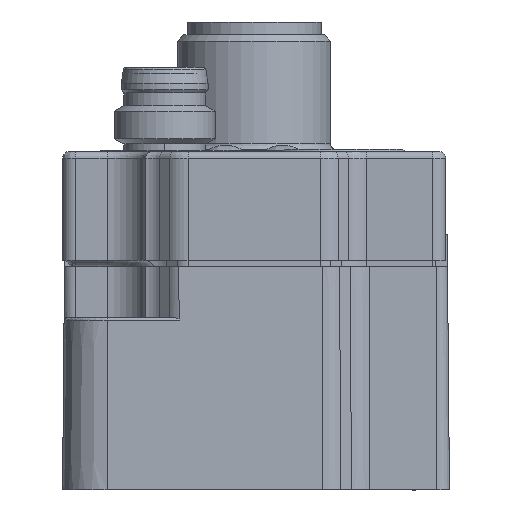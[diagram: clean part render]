
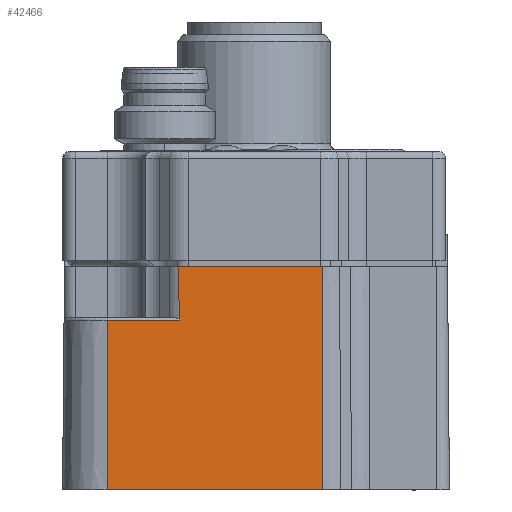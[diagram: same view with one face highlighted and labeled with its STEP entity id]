
A CAD part, front view. The second image highlights one B-rep face of the part: STEP entity #42466.
In plain terms, the highlighted planar face has unit normal (0, -1, 0.009).
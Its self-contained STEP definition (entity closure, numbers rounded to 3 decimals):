
#821 = DIRECTION ( 'NONE',  ( 0., 0.009, 1. ) ) ;
#1416 = CARTESIAN_POINT ( 'NONE',  ( -5.75, 0., -11.689 ) ) ;
#2776 = VERTEX_POINT ( 'NONE', #15012 ) ;
#4658 = VECTOR ( 'NONE', #821, 1000. ) ;
#5923 = EDGE_LOOP ( 'NONE', ( #29646, #33577, #47526, #33277, #43744, #41555, #22990 ) ) ;
#6136 = EDGE_CURVE ( 'NONE', #2776, #8476, #17898, .T. ) ;
#7126 = DIRECTION ( 'NONE',  ( 0., -0.009, -1. ) ) ;
#7173 = LINE ( 'NONE', #47529, #49574 ) ;
#7368 = LINE ( 'NONE', #50333, #49769 ) ;
#7708 = VERTEX_POINT ( 'NONE', #48083 ) ;
#8476 = VERTEX_POINT ( 'NONE', #36921 ) ;
#9246 = DIRECTION ( 'NONE',  ( -1., 0., 0. ) ) ;
#10087 = EDGE_CURVE ( 'NONE', #13324, #30437, #18788, .T. ) ;
#10630 = EDGE_CURVE ( 'NONE', #31687, #7708, #16927, .T. ) ;
#10683 = CARTESIAN_POINT ( 'NONE',  ( 11.134, 0.116, 1.613 ) ) ;
#10847 = DIRECTION ( 'NONE',  ( -1., 0., 0. ) ) ;
#13071 = CARTESIAN_POINT ( 'NONE',  ( 11.134, 0., -11.689 ) ) ;
#13298 = CARTESIAN_POINT ( 'NONE',  ( -0.188, 0.153, 5.811 ) ) ;
#13324 = VERTEX_POINT ( 'NONE', #1416 ) ;
#13840 = DIRECTION ( 'NONE',  ( 0., 0.009, 1. ) ) ;
#14420 = B_SPLINE_CURVE_WITH_KNOTS ( 'NONE', 3,
 ( #37683, #41810, #17247, #45913 ),
 .UNSPECIFIED., .F., .F.,
 ( 4, 4 ),
 ( 0., 1. ),
 .UNSPECIFIED. ) ;
#15012 = CARTESIAN_POINT ( 'NONE',  ( -0.098, 0.118, 1.811 ) ) ;
#16927 = LINE ( 'NONE', #13071, #4658 ) ;
#17247 = CARTESIAN_POINT ( 'NONE',  ( -0.128, 0.129, 3.061 ) ) ;
#17898 = LINE ( 'NONE', #36784, #38417 ) ;
#17972 = CARTESIAN_POINT ( 'NONE',  ( 11.134, 0., -11.689 ) ) ;
#18397 = VECTOR ( 'NONE', #10847, 1000. ) ;
#18788 = LINE ( 'NONE', #42345, #24011 ) ;
#19405 = DIRECTION ( 'NONE',  ( -1., 0., 0. ) ) ;
#22990 = ORIENTED_EDGE ( 'NONE', *, *, #10630, .T. ) ;
#24011 = VECTOR ( 'NONE', #13840, 1000. ) ;
#24087 = EDGE_CURVE ( 'NONE', #8476, #30437, #29273, .T. ) ;
#24639 = AXIS2_PLACEMENT_3D ( 'NONE', #39868, #31732, #7126 ) ;
#29273 = LINE ( 'NONE', #10683, #18397 ) ;
#29646 = ORIENTED_EDGE ( 'NONE', *, *, #34848, .T. ) ;
#30437 = VERTEX_POINT ( 'NONE', #39830 ) ;
#31687 = VERTEX_POINT ( 'NONE', #17972 ) ;
#31732 = DIRECTION ( 'NONE',  ( 0., -1., 0.009 ) ) ;
#33277 = ORIENTED_EDGE ( 'NONE', *, *, #24087, .T. ) ;
#33577 = ORIENTED_EDGE ( 'NONE', *, *, #33942, .T. ) ;
#33942 = EDGE_CURVE ( 'NONE', #38648, #2776, #14420, .T. ) ;
#34848 = EDGE_CURVE ( 'NONE', #7708, #38648, #7368, .T. ) ;
#36784 = CARTESIAN_POINT ( 'NONE',  ( -0.098, 0.118, 1.811 ) ) ;
#36921 = CARTESIAN_POINT ( 'NONE',  ( -0.093, 0.116, 1.613 ) ) ;
#37683 = CARTESIAN_POINT ( 'NONE',  ( -0.188, 0.153, 5.811 ) ) ;
#38387 = EDGE_CURVE ( 'NONE', #31687, #13324, #7173, .T. ) ;
#38417 = VECTOR ( 'NONE', #40949, 1000. ) ;
#38648 = VERTEX_POINT ( 'NONE', #13298 ) ;
#39830 = CARTESIAN_POINT ( 'NONE',  ( -5.75, 0.116, 1.613 ) ) ;
#39868 = CARTESIAN_POINT ( 'NONE',  ( 11.134, 0., -11.689 ) ) ;
#40949 = DIRECTION ( 'NONE',  ( 0.024, -0.009, -1. ) ) ;
#41555 = ORIENTED_EDGE ( 'NONE', *, *, #38387, .F. ) ;
#41810 = CARTESIAN_POINT ( 'NONE',  ( -0.158, 0.14, 4.395 ) ) ;
#42345 = CARTESIAN_POINT ( 'NONE',  ( -5.75, -4354.605, -499000. ) ) ;
#42466 = ADVANCED_FACE ( 'NONE', ( #49287 ), #52186, .T. ) ;
#43744 = ORIENTED_EDGE ( 'NONE', *, *, #10087, .F. ) ;
#45913 = CARTESIAN_POINT ( 'NONE',  ( -0.098, 0.118, 1.811 ) ) ;
#47526 = ORIENTED_EDGE ( 'NONE', *, *, #6136, .T. ) ;
#47529 = CARTESIAN_POINT ( 'NONE',  ( 5.901, 0., -11.689 ) ) ;
#48083 = CARTESIAN_POINT ( 'NONE',  ( 11.134, 0.153, 5.811 ) ) ;
#49287 = FACE_OUTER_BOUND ( 'NONE', #5923, .T. ) ;
#49574 = VECTOR ( 'NONE', #19405, 1000. ) ;
#49769 = VECTOR ( 'NONE', #9246, 1000. ) ;
#50333 = CARTESIAN_POINT ( 'NONE',  ( 11.134, 0.153, 5.811 ) ) ;
#52186 = PLANE ( 'NONE',  #24639 ) ;
